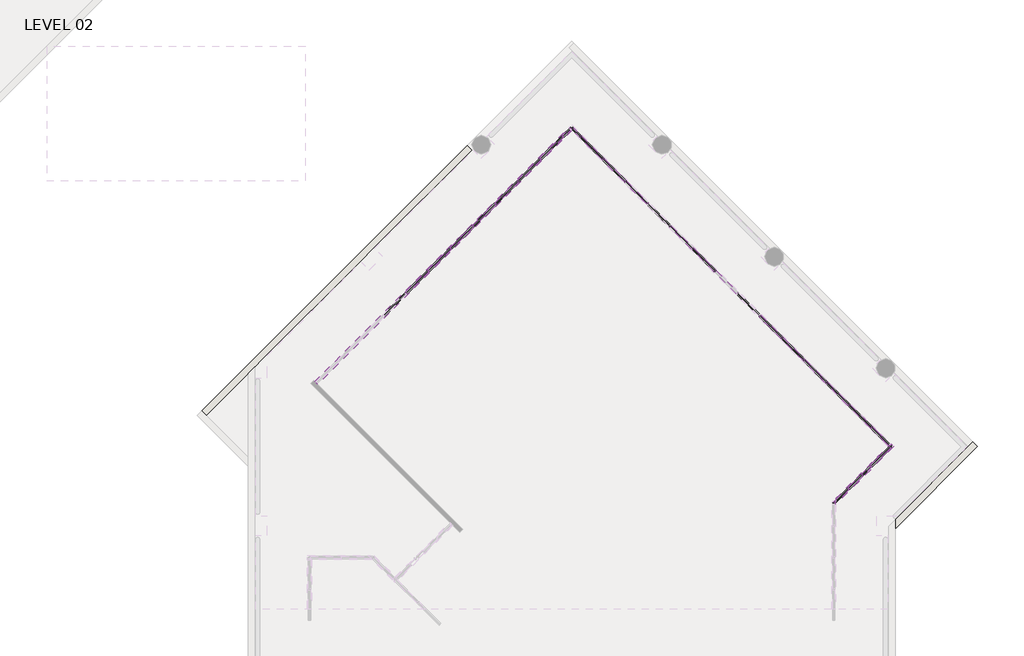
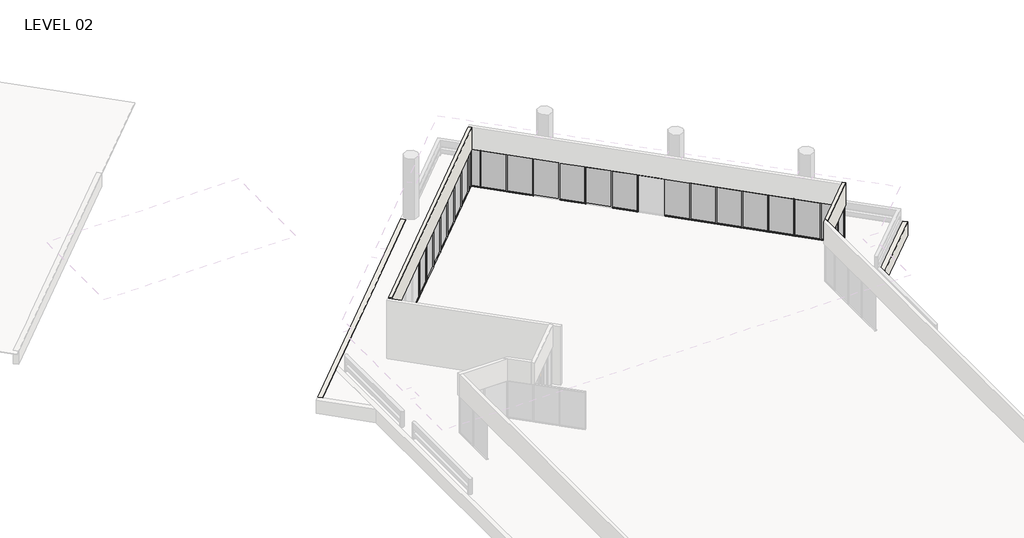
# One storey, part 17 of 19: 77 members, 26 plates, 4 walls.
"""IFC4 building model written with IfcOpenShell, lengths in millimetres."""

from ifc_helpers import new_model, si_unit, frame, origin, place, context, project, spatial, polyline, outline, extrude, faceted_brep, transform, mapped, element, save
from components import member_5247f267, member_e44af9ab, member_800970d4, member_b8d22739, member_e56bd8eb, member_191f7a6c, member_6d95746d, member_c23f844a, member_e779ecf1, member_129419c3, plate_67294edd, plate_4e8ae714, plate_aaac5d3d, plate_028de0fc, plate_e2551f41, plate_50b9cd61, plate_048e4634, plate_c15461e5, plate_33a48981, plate_85447239

model = new_model("IFC4")

# Units and contexts
model_context = context("Model", 3, world=origin())
ifc_project = project(units=[si_unit("LENGTHUNIT", "METRE", prefix="MILLI")], contexts=[model_context])

# Site, building, storey
site = spatial("IfcSite", under=ifc_project)
building = spatial("IfcBuilding", under=site)
storey = spatial("IfcBuildingStorey", under=building, Name="LEVEL 02", Elevation=4140.2)

# Members
placement = place(None, origin())
member_shape = member_5247f267(model_context)
element("IfcMember", 1, ObjectType="Rectangular Mullion : 2\" x 4.5\" rectangular", at=placement, inside=storey, context=model_context, shape_type="MappedRepresentation", body=[
    mapped(member_shape, transform((90192.1150289, 74747.7927786, 6731.0), x_axis=(0.0, 0.0, 1.0), y_axis=(0.7071067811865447, 0.7071067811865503, 0.0), z_axis=(-0.7071067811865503, 0.7071067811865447, 0.0))),
])
element("IfcMember", 2, ObjectType="Rectangular Mullion : 2\" x 4.5\" rectangular", at=placement, inside=storey, context=model_context, shape_type="MappedRepresentation", body=[
    mapped(member_shape, transform((75367.3482119, 86607.5365866, 6731.0), x_axis=(0.0, 0.0, 1.0), y_axis=(-0.7071067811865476, 0.7071067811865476, 0.0), z_axis=(-0.7071067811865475, -0.7071067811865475, 0.0))),
])
element("IfcMember", 3, ObjectType="Rectangular Mullion : 2\" x 4.5\" rectangular", at=placement, inside=storey, context=model_context, shape_type="MappedRepresentation", body=[
    mapped(member_shape, transform((72134.4856117, 83374.6739865, 6731.0), x_axis=(0.0, 0.0, 1.0), y_axis=(-0.7071067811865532, 0.7071067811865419, 0.0), z_axis=(-0.7071067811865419, -0.7071067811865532, 0.0))),
])
element("IfcMember", 4, ObjectType="Rectangular Mullion : 2\" x 4.5\" rectangular", at=placement, inside=storey, context=model_context, shape_type="MappedRepresentation", body=[
    mapped(member_shape, transform((69979.2537461, 81219.4421209, 6731.0), x_axis=(0.0, 0.0, 1.0), y_axis=(-0.7071067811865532, 0.7071067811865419, 0.0), z_axis=(-0.7071067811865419, -0.7071067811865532, 0.0))),
])
element("IfcMember", 5, ObjectType="Rectangular Mullion : 2\" x 4.5\" rectangular", at=placement, inside=storey, context=model_context, shape_type="MappedRepresentation", body=[
    mapped(member_shape, transform((68901.6378133, 80141.8261881, 6731.0), x_axis=(0.0, 0.0, 1.0), y_axis=(-0.7071067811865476, 0.7071067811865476, 0.0), z_axis=(-0.7071067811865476, -0.7071067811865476, 0.0))),
])
element("IfcMember", 6, ObjectType="Rectangular Mullion : 2\" x 4.5\" rectangular", at=placement, inside=storey, context=model_context, shape_type="MappedRepresentation", body=[
    mapped(member_shape, transform((79445.9229799, 85493.9848276, 6731.0), x_axis=(0.0, 0.0, 1.0), y_axis=(0.7071067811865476, 0.7071067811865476, 0.0), z_axis=(-0.7071067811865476, 0.7071067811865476, 0.0))),
])
element("IfcMember", 7, ObjectType="Rectangular Mullion : 2\" x 4.5\" rectangular", at=placement, inside=storey, context=model_context, shape_type="MappedRepresentation", body=[
    mapped(member_shape, transform((81601.1129799, 83338.7948276, 6731.0), x_axis=(0.0, 0.0, 1.0), y_axis=(0.7071067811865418, 0.7071067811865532, 0.0), z_axis=(-0.7071067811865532, 0.7071067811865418, 0.0))),
])
element("IfcMember", 8, ObjectType="Rectangular Mullion : 2\" x 4.5\" rectangular", at=placement, inside=storey, context=model_context, shape_type="MappedRepresentation", body=[
    mapped(member_shape, transform((82678.7079799, 82261.1998276, 6731.0), x_axis=(0.0, 0.0, 1.0), y_axis=(0.7071067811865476, 0.7071067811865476, 0.0), z_axis=(-0.7071067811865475, 0.7071067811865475, 0.0))),
])
element("IfcMember", 9, ObjectType="Rectangular Mullion : 2\" x 4.5\" rectangular", at=placement, inside=storey, context=model_context, shape_type="MappedRepresentation", body=[
    mapped(member_shape, transform((83756.3029799, 81183.6048276, 6731.0), x_axis=(0.0, 0.0, 1.0), y_axis=(0.7071067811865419, 0.7071067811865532, 0.0), z_axis=(-0.7071067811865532, 0.7071067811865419, 0.0))),
])
element("IfcMember", 10, ObjectType="Rectangular Mullion : 2\" x 4.5\" rectangular", at=placement, inside=storey, context=model_context, shape_type="MappedRepresentation", body=[
    mapped(member_shape, transform((78368.2922454, 86571.6155621, 6731.0), x_axis=(0.0, 0.0, 1.0), y_axis=(0.7071067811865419, 0.7071067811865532, 0.0), z_axis=(-0.7071067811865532, 0.7071067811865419, 0.0))),
])
element("IfcMember", 11, ObjectType="Rectangular Mullion : 2\" x 4.5\" rectangular", at=placement, inside=storey, context=model_context, shape_type="MappedRepresentation", body=[
    mapped(member_shape, transform((77290.6615109, 87649.2462966, 6731.0), x_axis=(0.0, 0.0, 1.0), y_axis=(0.7071067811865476, 0.7071067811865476, 0.0), z_axis=(-0.7071067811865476, 0.7071067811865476, 0.0))),
])
element("IfcMember", 12, ObjectType="Rectangular Mullion : 2\" x 4.5\" rectangular", at=placement, inside=storey, context=model_context, shape_type="MappedRepresentation", body=[
    mapped(member_shape, transform((74289.7174773, 85529.9058521, 6731.0), x_axis=(0.0, 0.0, 1.0), y_axis=(-0.7071067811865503, 0.7071067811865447, 0.0), z_axis=(-0.7071067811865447, -0.7071067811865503, 0.0))),
])
element("IfcMember", 13, ObjectType="Rectangular Mullion : 2\" x 4.5\" rectangular", at=placement, inside=storey, context=model_context, shape_type="MappedRepresentation", body=[
    mapped(member_shape, transform((71056.8696789, 82297.0580537, 6731.0), x_axis=(0.0, 0.0, 1.0), y_axis=(-0.7071067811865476, 0.7071067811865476, 0.0), z_axis=(-0.7071067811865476, -0.7071067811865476, 0.0))),
])
element("IfcMember", 14, ObjectType="Rectangular Mullion : 2\" x 4.5\" rectangular", at=placement, inside=storey, context=model_context, shape_type="MappedRepresentation", body=[
    mapped(member_shape, transform((73212.1015445, 84452.2899193, 6731.0), x_axis=(0.0, 0.0, 1.0), y_axis=(-0.7071067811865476, 0.7071067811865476, 0.0), z_axis=(-0.7071067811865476, -0.7071067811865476, 0.0))),
])
element("IfcMember", 15, ObjectType="Rectangular Mullion : 2\" x 4.5\" rectangular", at=placement, inside=storey, context=model_context, shape_type="MappedRepresentation", body=[
    mapped(member_shape, transform((91233.824739, 73706.0830686, 4140.2), x_axis=(0.0, 0.0, -1.0), y_axis=(0.7071067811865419, 0.7071067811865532, 0.0), z_axis=(0.7071067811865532, -0.7071067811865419, 0.0))),
])
element("IfcMember", 16, ObjectType="Rectangular Mullion : 2\" x 4.5\" rectangular", at=placement, inside=storey, context=model_context, shape_type="MappedRepresentation", body=[
    mapped(member_shape, transform((76409.0579219, 87649.2462966, 4140.2), x_axis=(0.0, 0.0, -1.0), y_axis=(-0.7071067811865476, 0.7071067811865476, 0.0), z_axis=(0.7071067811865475, 0.7071067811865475, 0.0))),
])
element("IfcMember", 17, ObjectType="Rectangular Mullion : 2\" x 4.5\" rectangular", at=placement, inside=storey, context=model_context, shape_type="MappedRepresentation", body=[
    mapped(member_shape, transform((75331.4271874, 86571.6155621, 4140.2), x_axis=(0.0, 0.0, -1.0), y_axis=(-0.7071067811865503, 0.7071067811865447, 0.0), z_axis=(0.7071067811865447, 0.7071067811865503, 0.0))),
])
element("IfcMember", 18, ObjectType="Rectangular Mullion : 2\" x 4.5\" rectangular", at=placement, inside=storey, context=model_context, shape_type="MappedRepresentation", body=[
    mapped(member_shape, transform((72098.5645873, 83338.752962, 4140.2), x_axis=(0.0, 0.0, -1.0), y_axis=(-0.7071067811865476, 0.7071067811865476, 0.0), z_axis=(0.7071067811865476, 0.7071067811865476, 0.0))),
])
element("IfcMember", 19, ObjectType="Rectangular Mullion : 2\" x 4.5\" rectangular", at=placement, inside=storey, context=model_context, shape_type="MappedRepresentation", body=[
    mapped(member_shape, transform((69943.3327217, 81183.5210964, 4140.2), x_axis=(0.0, 0.0, -1.0), y_axis=(-0.7071067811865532, 0.7071067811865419, 0.0), z_axis=(0.7071067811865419, 0.7071067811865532, 0.0))),
])
element("IfcMember", 20, ObjectType="Rectangular Mullion : 2\" x 4.5\" rectangular", at=placement, inside=storey, context=model_context, shape_type="MappedRepresentation", body=[
    mapped(member_shape, transform((68865.7167888, 80105.9051636, 4140.2), x_axis=(0.0, 0.0, -1.0), y_axis=(-0.7071067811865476, 0.7071067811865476, 0.0), z_axis=(0.7071067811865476, 0.7071067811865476, 0.0))),
])
element("IfcMember", 21, ObjectType="Rectangular Mullion : 2\" x 4.5\" rectangular", at=placement, inside=storey, context=model_context, shape_type="MappedRepresentation", body=[
    mapped(member_shape, transform((79410.0019555, 85529.9058521, 4140.2), x_axis=(0.0, 0.0, -1.0), y_axis=(0.7071067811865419, 0.7071067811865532, 0.0), z_axis=(0.7071067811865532, -0.7071067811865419, 0.0))),
])
element("IfcMember", 22, ObjectType="Rectangular Mullion : 2\" x 4.5\" rectangular", at=placement, inside=storey, context=model_context, shape_type="MappedRepresentation", body=[
    mapped(member_shape, transform((81565.1919555, 83374.7158521, 4140.2), x_axis=(0.0, 0.0, -1.0), y_axis=(0.7071067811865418, 0.7071067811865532, 0.0), z_axis=(0.7071067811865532, -0.7071067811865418, 0.0))),
])
element("IfcMember", 23, ObjectType="Rectangular Mullion : 2\" x 4.5\" rectangular", at=placement, inside=storey, context=model_context, shape_type="MappedRepresentation", body=[
    mapped(member_shape, transform((83720.3819555, 81219.5258521, 4140.2), x_axis=(0.0, 0.0, -1.0), y_axis=(0.7071067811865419, 0.7071067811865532, 0.0), z_axis=(0.7071067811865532, -0.7071067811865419, 0.0))),
])
element("IfcMember", 24, ObjectType="Rectangular Mullion : 2\" x 4.5\" rectangular", at=placement, inside=storey, context=model_context, shape_type="MappedRepresentation", body=[
    mapped(member_shape, transform((78332.3712209, 86607.5365866, 4140.2), x_axis=(0.0, 0.0, -1.0), y_axis=(0.7071067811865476, 0.7071067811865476, 0.0), z_axis=(0.7071067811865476, -0.7071067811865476, 0.0))),
])
element("IfcMember", 25, ObjectType="Rectangular Mullion : 2\" x 4.5\" rectangular", at=placement, inside=storey, context=model_context, shape_type="MappedRepresentation", body=[
    mapped(member_shape, transform((74253.7964529, 85493.9848276, 4140.2), x_axis=(0.0, 0.0, -1.0), y_axis=(-0.7071067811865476, 0.7071067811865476, 0.0), z_axis=(0.7071067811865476, 0.7071067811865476, 0.0))),
])
element("IfcMember", 26, ObjectType="Rectangular Mullion : 2\" x 4.5\" rectangular", at=placement, inside=storey, context=model_context, shape_type="MappedRepresentation", body=[
    mapped(member_shape, transform((71020.9486545, 82261.1370292, 4140.2), x_axis=(0.0, 0.0, -1.0), y_axis=(-0.7071067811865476, 0.7071067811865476, 0.0), z_axis=(0.7071067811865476, 0.7071067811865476, 0.0))),
])
element("IfcMember", 27, ObjectType="Rectangular Mullion : 2\" x 4.5\" rectangular", at=placement, inside=storey, context=model_context, shape_type="MappedRepresentation", body=[
    mapped(member_shape, transform((73176.1805201, 84416.3688948, 4140.2), x_axis=(0.0, 0.0, -1.0), y_axis=(-0.7071067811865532, 0.7071067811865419, 0.0), z_axis=(0.7071067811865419, 0.7071067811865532, 0.0))),
])
member_2_shape = member_e44af9ab(model_context)
element("IfcMember", 28, ObjectType="Rectangular Mullion : 2\" x 4.5\" rectangular", at=placement, inside=storey, context=model_context, shape_type="MappedRepresentation", body=[
    mapped(member_2_shape, transform((90153.1124677, 70729.1398372, 4140.2), x_axis=(0.7071067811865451, 0.7071067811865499, 0.0), y_axis=(0.7071067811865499, -0.7071067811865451, 0.0), z_axis=(0.0, 0.0, -1.0))),
])
element("IfcMember", 29, ObjectType="Rectangular Mullion : 2\" x 4.5\" rectangular", at=placement, inside=storey, context=model_context, shape_type="MappedRepresentation", body=[
    mapped(member_2_shape, transform((91251.7852512, 73688.1225563, 4140.2), x_axis=(-0.7071067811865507, 0.7071067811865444, 0.0), y_axis=(0.7071067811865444, 0.7071067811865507, 0.0), z_axis=(0.0, 0.0, -1.0))),
])
element("IfcMember", 30, ObjectType="Rectangular Mullion : 2\" x 4.5\" rectangular", at=placement, inside=storey, context=model_context, shape_type="MappedRepresentation", body=[
    mapped(member_2_shape, transform((90174.1545167, 74765.7532909, 4140.2), x_axis=(-0.7071067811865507, 0.7071067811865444, 0.0), y_axis=(0.7071067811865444, 0.7071067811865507, 0.0), z_axis=(0.0, 0.0, -1.0))),
])
element("IfcMember", 31, ObjectType="Rectangular Mullion : 2\" x 4.5\" rectangular", at=placement, inside=storey, context=model_context, shape_type="MappedRepresentation", body=[
    mapped(member_2_shape, transform((89102.5111069, 75837.3967006, 4140.2), x_axis=(-0.7071067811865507, 0.7071067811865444, 0.0), y_axis=(0.7071067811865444, 0.7071067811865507, 0.0), z_axis=(0.0, 0.0, -1.0))),
])
element("IfcMember", 32, ObjectType="Rectangular Mullion : 2\" x 4.5\" rectangular", at=placement, inside=storey, context=model_context, shape_type="MappedRepresentation", body=[
    mapped(member_2_shape, transform((88030.8676971, 76909.0401104, 4140.2), x_axis=(-0.7071067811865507, 0.7071067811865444, 0.0), y_axis=(0.7071067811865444, 0.7071067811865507, 0.0), z_axis=(0.0, 0.0, -1.0))),
])
element("IfcMember", 33, ObjectType="Rectangular Mullion : 2\" x 4.5\" rectangular", at=placement, inside=storey, context=model_context, shape_type="MappedRepresentation", body=[
    mapped(member_2_shape, transform((76427.0184342, 87667.2068089, 4140.2), x_axis=(-0.7071067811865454, -0.7071067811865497, 0.0), y_axis=(-0.7071067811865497, 0.7071067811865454, 0.0), z_axis=(0.0, 0.0, -1.0))),
])
element("IfcMember", 34, ObjectType="Rectangular Mullion : 2\" x 4.5\" rectangular", at=placement, inside=storey, context=model_context, shape_type="MappedRepresentation", body=[
    mapped(member_2_shape, transform((75349.3876996, 86589.5760744, 4140.2), x_axis=(-0.7071067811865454, -0.7071067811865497, 0.0), y_axis=(-0.7071067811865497, 0.7071067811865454, 0.0), z_axis=(0.0, 0.0, -1.0))),
])
element("IfcMember", 35, ObjectType="Rectangular Mullion : 2\" x 4.5\" rectangular", at=placement, inside=storey, context=model_context, shape_type="MappedRepresentation", body=[
    mapped(member_2_shape, transform((72116.5250995, 83356.7134742, 4140.2), x_axis=(-0.7071067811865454, -0.7071067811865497, 0.0), y_axis=(-0.7071067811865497, 0.7071067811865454, 0.0), z_axis=(0.0, 0.0, -1.0))),
])
element("IfcMember", 36, ObjectType="Rectangular Mullion : 2\" x 4.5\" rectangular", at=placement, inside=storey, context=model_context, shape_type="MappedRepresentation", body=[
    mapped(member_2_shape, transform((69961.2932339, 81201.4816086, 4140.2), x_axis=(-0.7071067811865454, -0.7071067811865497, 0.0), y_axis=(-0.7071067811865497, 0.7071067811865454, 0.0), z_axis=(0.0, 0.0, -1.0))),
])
element("IfcMember", 37, ObjectType="Rectangular Mullion : 2\" x 4.5\" rectangular", at=placement, inside=storey, context=model_context, shape_type="MappedRepresentation", body=[
    mapped(member_2_shape, transform((68883.6773011, 80123.8656758, 4140.2), x_axis=(-0.7071067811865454, -0.7071067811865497, 0.0), y_axis=(-0.7071067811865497, 0.7071067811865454, 0.0), z_axis=(0.0, 0.0, -1.0))),
])
element("IfcMember", 38, ObjectType="Rectangular Mullion : 2\" x 4.5\" rectangular", at=placement, inside=storey, context=model_context, shape_type="MappedRepresentation", body=[
    mapped(member_2_shape, transform((86959.2242873, 77980.6835202, 4140.2), x_axis=(-0.7071067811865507, 0.7071067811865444, 0.0), y_axis=(0.7071067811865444, 0.7071067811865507, 0.0), z_axis=(0.0, 0.0, -1.0))),
])
element("IfcMember", 39, ObjectType="Rectangular Mullion : 2\" x 4.5\" rectangular", at=placement, inside=storey, context=model_context, shape_type="MappedRepresentation", body=[
    mapped(member_2_shape, transform((85887.5808775, 79052.32693, 4140.2), x_axis=(-0.7071067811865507, 0.7071067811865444, 0.0), y_axis=(0.7071067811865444, 0.7071067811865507, 0.0), z_axis=(0.0, 0.0, -1.0))),
])
element("IfcMember", 40, ObjectType="Rectangular Mullion : 2\" x 4.5\" rectangular", at=placement, inside=storey, context=model_context, shape_type="MappedRepresentation", body=[
    mapped(member_2_shape, transform((79427.9624677, 85511.9453398, 4140.2), x_axis=(-0.7071067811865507, 0.7071067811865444, 0.0), y_axis=(0.7071067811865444, 0.7071067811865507, 0.0), z_axis=(0.0, 0.0, -1.0))),
])
element("IfcMember", 41, ObjectType="Rectangular Mullion : 2\" x 4.5\" rectangular", at=placement, inside=storey, context=model_context, shape_type="MappedRepresentation", body=[
    mapped(member_2_shape, transform((91230.7432022, 71806.7705717, 4140.2), x_axis=(0.7071067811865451, 0.7071067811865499, 0.0), y_axis=(0.7071067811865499, -0.7071067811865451, 0.0), z_axis=(0.0, 0.0, -1.0))),
])
element("IfcMember", 42, ObjectType="Rectangular Mullion : 2\" x 4.5\" rectangular", at=placement, inside=storey, context=model_context, shape_type="MappedRepresentation", body=[
    mapped(member_2_shape, transform((81583.1524677, 83356.7553398, 4140.2), x_axis=(-0.7071067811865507, 0.7071067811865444, 0.0), y_axis=(0.7071067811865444, 0.7071067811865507, 0.0), z_axis=(0.0, 0.0, -1.0))),
])
element("IfcMember", 43, ObjectType="Rectangular Mullion : 2\" x 4.5\" rectangular", at=placement, inside=storey, context=model_context, shape_type="MappedRepresentation", body=[
    mapped(member_2_shape, transform((83738.3424677, 81201.5653398, 4140.2), x_axis=(-0.7071067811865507, 0.7071067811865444, 0.0), y_axis=(0.7071067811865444, 0.7071067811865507, 0.0), z_axis=(0.0, 0.0, -1.0))),
])
element("IfcMember", 44, ObjectType="Rectangular Mullion : 2\" x 4.5\" rectangular", at=placement, inside=storey, context=model_context, shape_type="MappedRepresentation", body=[
    mapped(member_2_shape, transform((78350.3317332, 86589.5760744, 4140.2), x_axis=(-0.7071067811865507, 0.7071067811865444, 0.0), y_axis=(0.7071067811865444, 0.7071067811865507, 0.0), z_axis=(0.0, 0.0, -1.0))),
])
element("IfcMember", 45, ObjectType="Rectangular Mullion : 2\" x 4.5\" rectangular", at=placement, inside=storey, context=model_context, shape_type="MappedRepresentation", body=[
    mapped(member_2_shape, transform((77272.7009986, 87667.2068089, 4140.2), x_axis=(-0.7071067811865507, 0.7071067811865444, 0.0), y_axis=(0.7071067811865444, 0.7071067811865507, 0.0), z_axis=(0.0, 0.0, -1.0))),
])
element("IfcMember", 46, ObjectType="Rectangular Mullion : 2\" x 4.5\" rectangular", at=placement, inside=storey, context=model_context, shape_type="MappedRepresentation", body=[
    mapped(member_2_shape, transform((74271.7569651, 85511.9453398, 4140.2), x_axis=(-0.7071067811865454, -0.7071067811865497, 0.0), y_axis=(-0.7071067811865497, 0.7071067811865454, 0.0), z_axis=(0.0, 0.0, -1.0))),
])
element("IfcMember", 47, ObjectType="Rectangular Mullion : 2\" x 4.5\" rectangular", at=placement, inside=storey, context=model_context, shape_type="MappedRepresentation", body=[
    mapped(member_2_shape, transform((71038.9091667, 82279.0975414, 4140.2), x_axis=(-0.7071067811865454, -0.7071067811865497, 0.0), y_axis=(-0.7071067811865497, 0.7071067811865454, 0.0), z_axis=(0.0, 0.0, -1.0))),
])
element("IfcMember", 48, ObjectType="Rectangular Mullion : 2\" x 4.5\" rectangular", at=placement, inside=storey, context=model_context, shape_type="MappedRepresentation", body=[
    mapped(member_2_shape, transform((73194.1410323, 84434.329407, 4140.2), x_axis=(-0.7071067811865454, -0.7071067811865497, 0.0), y_axis=(-0.7071067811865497, 0.7071067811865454, 0.0), z_axis=(0.0, 0.0, -1.0))),
])
member_3_shape = member_800970d4(model_context)
element("IfcMember", 49, ObjectType="Rectangular Mullion : 2\" x 4.5\" rectangular", at=placement, inside=storey, context=model_context, shape_type="MappedRepresentation", body=[
    mapped(member_3_shape, transform((92181.940219, 72757.9675885, 4140.2), x_axis=(0.7071067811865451, 0.7071067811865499, 0.0), y_axis=(0.7071067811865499, -0.7071067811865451, 0.0), z_axis=(0.0, 0.0, -1.0))),
])
element("IfcMember", 50, ObjectType="Rectangular Mullion : 2\" x 4.5\" rectangular", at=placement, inside=storey, context=model_context, shape_type="MappedRepresentation", body=[
    mapped(member_3_shape, transform((76849.8597164, 88090.0480911, 4140.2), x_axis=(-0.7071067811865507, 0.7071067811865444, 0.0), y_axis=(0.7071067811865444, 0.7071067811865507, 0.0), z_axis=(0.0, 0.0, -1.0))),
])
element("IfcMember", 51, ObjectType="Rectangular Mullion : 2\" x 4.5\" rectangular", at=placement, inside=storey, context=model_context, shape_type="MappedRepresentation", body=[
    mapped(member_3_shape, transform((89445.0847164, 70021.1120859, 6731.0), x_axis=(-0.7071067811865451, -0.7071067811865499, 0.0), y_axis=(0.7071067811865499, -0.7071067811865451, 0.0), z_axis=(0.0, 0.0, 1.0))),
])
element("IfcMember", 52, ObjectType="Rectangular Mullion : 2\" x 4.5\" rectangular", at=placement, inside=storey, context=model_context, shape_type="MappedRepresentation", body=[
    mapped(member_3_shape, transform((92181.940219, 72757.9675885, 6731.0), x_axis=(0.7071067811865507, -0.7071067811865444, 0.0), y_axis=(0.7071067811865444, 0.7071067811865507, 0.0), z_axis=(0.0, 0.0, 1.0))),
])
element("IfcMember", 53, ObjectType="Rectangular Mullion : 2\" x 4.5\" rectangular", at=placement, inside=storey, context=model_context, shape_type="MappedRepresentation", body=[
    mapped(member_3_shape, transform((76849.8597164, 88090.0480911, 6731.0), x_axis=(0.7071067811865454, 0.7071067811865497, 0.0), y_axis=(-0.7071067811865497, 0.7071067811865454, 0.0), z_axis=(0.0, 0.0, 1.0))),
])
member_4_shape = member_b8d22739(model_context)
element("IfcMember", 54, ObjectType="Rectangular Mullion : 2\" x 4.5\" rectangular", at=placement, inside=storey, context=model_context, shape_type="MappedRepresentation", body=[
    mapped(member_4_shape, transform((76813.9386919, 88054.1270666, 4140.2), x_axis=(0.0, 0.0, -1.0), y_axis=(-0.7071067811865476, 0.7071067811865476, 0.0), z_axis=(0.7071067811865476, 0.7071067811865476, 0.0))),
])
element("IfcMember", 55, ObjectType="Rectangular Mullion : 2\" x 4.5\" rectangular", at=placement, inside=storey, context=model_context, shape_type="MappedRepresentation", body=[
    mapped(member_4_shape, transform((77254.7404864, 87685.1673211, 4140.2), x_axis=(0.0, 0.0, -1.0), y_axis=(0.7071067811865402, 0.7071067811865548, 0.0), z_axis=(0.7071067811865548, -0.7071067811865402, 0.0))),
])
element("IfcMember", 56, ObjectType="Rectangular Mullion : 2\" x 4.5\" rectangular", at=placement, inside=storey, context=model_context, shape_type="MappedRepresentation", body=[
    mapped(member_4_shape, transform((76885.7807409, 88054.1270666, 6731.0), x_axis=(0.0, 0.0, 1.0), y_axis=(0.7071067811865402, 0.7071067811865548, 0.0), z_axis=(-0.7071067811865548, 0.7071067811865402, 0.0))),
])
element("IfcMember", 57, ObjectType="Rectangular Mullion : 2\" x 4.5\" rectangular", at=placement, inside=storey, context=model_context, shape_type="MappedRepresentation", body=[
    mapped(member_4_shape, transform((76444.9789464, 87685.1673211, 6731.0), x_axis=(0.0, 0.0, 1.0), y_axis=(-0.7071067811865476, 0.7071067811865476, 0.0), z_axis=(-0.7071067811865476, -0.7071067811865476, 0.0))),
])
member_5_shape = member_e56bd8eb(model_context)
element("IfcMember", 58, ObjectType="Rectangular Mullion : 2\" x 4.5\" rectangular", at=placement, inside=storey, context=model_context, shape_type="MappedRepresentation", body=[
    mapped(member_5_shape, transform((92146.0191945, 72722.046564, 6731.0), x_axis=(0.0, 0.0, 1.0), y_axis=(0.7071067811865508, -0.7071067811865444, 0.0), z_axis=(0.7071067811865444, 0.7071067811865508, 0.0))),
])
member_6_shape = member_191f7a6c(model_context)
element("IfcMember", 59, ObjectType="Rectangular Mullion : 2\" x 4.5\" rectangular", at=placement, inside=storey, context=model_context, shape_type="MappedRepresentation", body=[
    mapped(member_6_shape, transform((90135.1519555, 70711.179325, 6731.0), x_axis=(0.0, 0.0, 1.0), y_axis=(0.7071067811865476, -0.7071067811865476, 0.0), z_axis=(0.7071067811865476, 0.7071067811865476, 0.0))),
])
element("IfcMember", 60, ObjectType="Rectangular Mullion : 2\" x 4.5\" rectangular", at=placement, inside=storey, context=model_context, shape_type="MappedRepresentation", body=[
    mapped(member_6_shape, transform((89481.0057409, 70057.0331104, 4140.2), x_axis=(0.0, 0.0, -1.0), y_axis=(0.7071067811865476, -0.7071067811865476, 0.0), z_axis=(-0.7071067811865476, -0.7071067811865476, 0.0))),
])
element("IfcMember", 61, ObjectType="Rectangular Mullion : 2\" x 4.5\" rectangular", at=placement, inside=storey, context=model_context, shape_type="MappedRepresentation", body=[
    mapped(member_5_shape, transform((91248.7037145, 71824.731084, 4140.2), x_axis=(0.0, 0.0, -1.0), y_axis=(0.7071067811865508, -0.7071067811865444, 0.0), z_axis=(-0.7071067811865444, -0.7071067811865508, 0.0))),
])
member_7_shape = member_6d95746d(model_context)
element("IfcMember", 62, ObjectType="Rectangular Mullion : 2\" x 4.5\" rectangular", at=placement, inside=storey, context=model_context, shape_type="MappedRepresentation", body=[
    mapped(member_7_shape, transform((91269.7457634, 73670.1620441, 6731.0), x_axis=(0.0, 0.0, 1.0), y_axis=(0.7071067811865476, 0.7071067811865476, 0.0), z_axis=(-0.7071067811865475, 0.7071067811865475, 0.0))),
])
member_8_shape = member_c23f844a(model_context)
element("IfcMember", 63, ObjectType="Rectangular Mullion : 2\" x 4.5\" rectangular", at=placement, inside=storey, context=model_context, shape_type="MappedRepresentation", body=[
    mapped(member_8_shape, transform((89120.4716191, 75819.4361884, 6731.0), x_axis=(0.0, 0.0, 1.0), y_axis=(0.7071067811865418, 0.7071067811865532, 0.0), z_axis=(-0.7071067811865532, 0.7071067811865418, 0.0))),
])
element("IfcMember", 64, ObjectType="Rectangular Mullion : 2\" x 4.5\" rectangular", at=placement, inside=storey, context=model_context, shape_type="MappedRepresentation", body=[
    mapped(member_8_shape, transform((88048.8282093, 76891.0795982, 6731.0), x_axis=(0.0, 0.0, 1.0), y_axis=(0.7071067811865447, 0.7071067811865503, 0.0), z_axis=(-0.7071067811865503, 0.7071067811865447, 0.0))),
])
element("IfcMember", 65, ObjectType="Rectangular Mullion : 2\" x 4.5\" rectangular", at=placement, inside=storey, context=model_context, shape_type="MappedRepresentation", body=[
    mapped(member_8_shape, transform((86977.1847995, 77962.723008, 6731.0), x_axis=(0.0, 0.0, 1.0), y_axis=(0.7071067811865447, 0.7071067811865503, 0.0), z_axis=(-0.7071067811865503, 0.7071067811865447, 0.0))),
])
element("IfcMember", 66, ObjectType="Rectangular Mullion : 2\" x 4.5\" rectangular", at=placement, inside=storey, context=model_context, shape_type="MappedRepresentation", body=[
    mapped(member_8_shape, transform((85905.5413897, 79034.3664178, 6731.0), x_axis=(0.0, 0.0, 1.0), y_axis=(0.7071067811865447, 0.7071067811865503, 0.0), z_axis=(-0.7071067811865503, 0.7071067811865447, 0.0))),
])
element("IfcMember", 67, ObjectType="Rectangular Mullion : 2\" x 4.5\" rectangular", at=placement, inside=storey, context=model_context, shape_type="MappedRepresentation", body=[
    mapped(member_7_shape, transform((92146.0191945, 72793.888613, 4140.2), x_axis=(0.0, 0.0, -1.0), y_axis=(0.7071067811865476, 0.7071067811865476, 0.0), z_axis=(0.7071067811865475, -0.7071067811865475, 0.0))),
])
element("IfcMember", 68, ObjectType="Rectangular Mullion : 2\" x 4.5\" rectangular", at=placement, inside=storey, context=model_context, shape_type="MappedRepresentation", body=[
    mapped(member_8_shape, transform((90156.1940044, 74783.7138031, 4140.2), x_axis=(0.0, 0.0, -1.0), y_axis=(0.7071067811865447, 0.7071067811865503, 0.0), z_axis=(0.7071067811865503, -0.7071067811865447, 0.0))),
])
element("IfcMember", 69, ObjectType="Rectangular Mullion : 2\" x 4.5\" rectangular", at=placement, inside=storey, context=model_context, shape_type="MappedRepresentation", body=[
    mapped(member_8_shape, transform((89084.5505946, 75855.3572129, 4140.2), x_axis=(0.0, 0.0, -1.0), y_axis=(0.7071067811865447, 0.7071067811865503, 0.0), z_axis=(0.7071067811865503, -0.7071067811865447, 0.0))),
])
element("IfcMember", 70, ObjectType="Rectangular Mullion : 2\" x 4.5\" rectangular", at=placement, inside=storey, context=model_context, shape_type="MappedRepresentation", body=[
    mapped(member_8_shape, transform((88012.9071848, 76927.0006227, 4140.2), x_axis=(0.0, 0.0, -1.0), y_axis=(0.7071067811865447, 0.7071067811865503, 0.0), z_axis=(0.7071067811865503, -0.7071067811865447, 0.0))),
])
element("IfcMember", 71, ObjectType="Rectangular Mullion : 2\" x 4.5\" rectangular", at=placement, inside=storey, context=model_context, shape_type="MappedRepresentation", body=[
    mapped(member_8_shape, transform((86941.263775, 77998.6440325, 4140.2), x_axis=(0.0, 0.0, -1.0), y_axis=(0.7071067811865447, 0.7071067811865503, 0.0), z_axis=(0.7071067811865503, -0.7071067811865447, 0.0))),
])
element("IfcMember", 72, ObjectType="Rectangular Mullion : 2\" x 4.5\" rectangular", at=placement, inside=storey, context=model_context, shape_type="MappedRepresentation", body=[
    mapped(member_8_shape, transform((85869.6203653, 79070.2874423, 4140.2), x_axis=(0.0, 0.0, -1.0), y_axis=(0.7071067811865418, 0.7071067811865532, 0.0), z_axis=(0.7071067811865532, -0.7071067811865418, 0.0))),
])
element("IfcMember", 73, ObjectType="Rectangular Mullion : 2\" x 4.5\" rectangular", at=placement, inside=storey, context=model_context, shape_type="MappedRepresentation", body=[
    mapped(member_2_shape, transform((90813.5124677, 71389.5398372, 4140.2), x_axis=(0.7071067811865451, 0.7071067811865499, 0.0), y_axis=(0.7071067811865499, -0.7071067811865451, 0.0), z_axis=(0.0, 0.0, -1.0))),
])
member_9_shape = member_e779ecf1(model_context)
element("IfcMember", 74, ObjectType="Rectangular Mullion : 2\" x 4.5\" rectangular", at=placement, inside=storey, context=model_context, shape_type="MappedRepresentation", body=[
    mapped(member_9_shape, transform((90171.0729799, 70747.1003495, 4140.2), x_axis=(0.0, 0.0, -1.0), y_axis=(0.7071067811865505, -0.7071067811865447, 0.0), z_axis=(-0.7071067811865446, -0.7071067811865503, 0.0))),
])
member_10_shape = member_129419c3(model_context)
element("IfcMember", 75, ObjectType="Rectangular Mullion : 2\" x 4.5\" rectangular", at=placement, inside=storey, context=model_context, shape_type="MappedRepresentation", body=[
    mapped(member_10_shape, transform((91212.78269, 71788.8100595, 6731.0), x_axis=(0.0, 0.0, 1.0), y_axis=(0.7071067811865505, -0.7071067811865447, 0.0), z_axis=(0.7071067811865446, 0.7071067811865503, 0.0))),
])
element("IfcMember", 76, ObjectType="Rectangular Mullion : 2\" x 4.5\" rectangular", at=placement, inside=storey, context=model_context, shape_type="MappedRepresentation", body=[
    mapped(member_10_shape, transform((90831.4729799, 71407.5003495, 4140.2), x_axis=(0.0, 0.0, -1.0), y_axis=(0.7071067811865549, -0.7071067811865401, 0.0), z_axis=(-0.7071067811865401, -0.7071067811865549, 0.0))),
])
element("IfcMember", 77, ObjectType="Rectangular Mullion : 2\" x 4.5\" rectangular", at=placement, inside=storey, context=model_context, shape_type="MappedRepresentation", body=[
    mapped(member_9_shape, transform((90795.5519555, 71371.579325, 6731.0), x_axis=(0.0, 0.0, 1.0), y_axis=(0.7071067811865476, -0.7071067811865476, 0.0), z_axis=(0.7071067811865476, 0.7071067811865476, 0.0))),
])

# Plates
plate_shape = plate_67294edd(model_context)
element("IfcPlate", 78, ObjectType="System Panel : 1/4\" Glass", at=placement, inside=storey, context=model_context, shape_type="MappedRepresentation", body=[
    mapped(plate_shape, transform((90712.9698839, 74226.9379236, 4191.0), x_axis=(-0.7071067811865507, 0.7071067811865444, 0.0), y_axis=(-0.7071067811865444, -0.7071067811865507, 0.0), z_axis=(0.0, 0.0, 1.0))),
])
element("IfcPlate", 79, ObjectType="System Panel : 1/4\" Glass", at=placement, inside=storey, context=model_context, shape_type="MappedRepresentation", body=[
    mapped(plate_shape, transform((75888.2030669, 87128.3914416, 4191.0), x_axis=(-0.7071067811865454, -0.7071067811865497, 0.0), y_axis=(0.7071067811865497, -0.7071067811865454, 0.0), z_axis=(0.0, 0.0, 1.0))),
])
element("IfcPlate", 80, ObjectType="System Panel : 1/4\" Glass", at=placement, inside=storey, context=model_context, shape_type="MappedRepresentation", body=[
    mapped(plate_shape, transform((74810.5723324, 86050.7607071, 4191.0), x_axis=(-0.7071067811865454, -0.7071067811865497, 0.0), y_axis=(0.7071067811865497, -0.7071067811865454, 0.0), z_axis=(0.0, 0.0, 1.0))),
])
element("IfcPlate", 81, ObjectType="System Panel : 1/4\" Glass", at=placement, inside=storey, context=model_context, shape_type="MappedRepresentation", body=[
    mapped(plate_shape, transform((78889.1471004, 86050.7607071, 4191.0), x_axis=(-0.7071067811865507, 0.7071067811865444, 0.0), y_axis=(-0.7071067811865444, -0.7071067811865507, 0.0), z_axis=(0.0, 0.0, 1.0))),
])
element("IfcPlate", 82, ObjectType="System Panel : 1/4\" Glass", at=placement, inside=storey, context=model_context, shape_type="MappedRepresentation", body=[
    mapped(plate_shape, transform((77811.5163659, 87128.3914416, 4191.0), x_axis=(-0.7071067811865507, 0.7071067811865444, 0.0), y_axis=(-0.7071067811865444, -0.7071067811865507, 0.0), z_axis=(0.0, 0.0, 1.0))),
])
plate_2_shape = plate_4e8ae714(model_context)
element("IfcPlate", 83, ObjectType="System Panel : 1/4\" Glass", at=placement, inside=storey, context=model_context, shape_type="MappedRepresentation", body=[
    mapped(plate_2_shape, transform((76629.4588192, 87869.6471939, 4191.0), x_axis=(-0.7071067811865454, -0.7071067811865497, 0.0), y_axis=(0.7071067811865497, -0.7071067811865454, 0.0), z_axis=(0.0, 0.0, 1.0))),
])
element("IfcPlate", 84, ObjectType="System Panel : 1/4\" Glass", at=placement, inside=storey, context=model_context, shape_type="MappedRepresentation", body=[
    mapped(plate_2_shape, transform((77070.2606136, 87869.6471939, 4191.0), x_axis=(-0.7071067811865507, 0.7071067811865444, 0.0), y_axis=(-0.7071067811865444, -0.7071067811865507, 0.0), z_axis=(0.0, 0.0, 1.0))),
])
plate_3_shape = plate_aaac5d3d(model_context)
element("IfcPlate", 85, ObjectType="System Panel : 1/4\" Glass", at=placement, inside=storey, context=model_context, shape_type="MappedRepresentation", body=[
    mapped(plate_3_shape, transform((71577.7171331, 82817.9055078, 4191.0), x_axis=(-0.7071067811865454, -0.7071067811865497, 0.0), y_axis=(0.7071067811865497, -0.7071067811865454, 0.0), z_axis=(0.0, 0.0, 1.0))),
])
element("IfcPlate", 86, ObjectType="System Panel : 1/4\" Glass", at=placement, inside=storey, context=model_context, shape_type="MappedRepresentation", body=[
    mapped(plate_3_shape, transform((69422.4852675, 80662.6736422, 4191.0), x_axis=(-0.7071067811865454, -0.7071067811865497, 0.0), y_axis=(0.7071067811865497, -0.7071067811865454, 0.0), z_axis=(0.0, 0.0, 1.0))),
])
element("IfcPlate", 87, ObjectType="System Panel : 1/4\" Glass", at=placement, inside=storey, context=model_context, shape_type="MappedRepresentation", body=[
    mapped(plate_3_shape, transform((73732.9489987, 84973.1373734, 4191.0), x_axis=(-0.7071067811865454, -0.7071067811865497, 0.0), y_axis=(0.7071067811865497, -0.7071067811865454, 0.0), z_axis=(0.0, 0.0, 1.0))),
])
element("IfcPlate", 88, ObjectType="System Panel : 1/4\" Glass", at=placement, inside=storey, context=model_context, shape_type="MappedRepresentation", body=[
    mapped(plate_3_shape, transform((70500.1012003, 81740.289575, 4191.0), x_axis=(-0.7071067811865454, -0.7071067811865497, 0.0), y_axis=(0.7071067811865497, -0.7071067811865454, 0.0), z_axis=(0.0, 0.0, 1.0))),
])
element("IfcPlate", 89, ObjectType="System Panel : 1/4\" Glass", at=placement, inside=storey, context=model_context, shape_type="MappedRepresentation", body=[
    mapped(plate_3_shape, transform((72655.3330659, 83895.5214406, 4191.0), x_axis=(-0.7071067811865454, -0.7071067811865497, 0.0), y_axis=(0.7071067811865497, -0.7071067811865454, 0.0), z_axis=(0.0, 0.0, 1.0))),
])
plate_4_shape = plate_028de0fc(model_context)
element("IfcPlate", 90, ObjectType="System Panel : 1/4\" Glass", at=placement, inside=storey, context=model_context, shape_type="MappedRepresentation", body=[
    mapped(plate_4_shape, transform((89808.0788482, 70384.1062177, 4191.0), x_axis=(0.7071067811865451, 0.7071067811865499, 0.0), y_axis=(-0.7071067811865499, 0.7071067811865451, 0.0), z_axis=(0.0, 0.0, 1.0))),
])
plate_5_shape = plate_e2551f41(model_context)
element("IfcPlate", 91, ObjectType="System Panel : 1/4\" Glass", at=placement, inside=storey, context=model_context, shape_type="MappedRepresentation", body=[
    mapped(plate_5_shape, transform((91707.882479, 73232.0253285, 4191.0), x_axis=(-0.7071067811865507, 0.7071067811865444, 0.0), y_axis=(-0.7071067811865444, -0.7071067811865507, 0.0), z_axis=(0.0, 0.0, 1.0))),
])
plate_6_shape = plate_50b9cd61(model_context)
element("IfcPlate", 92, ObjectType="System Panel : 1/4\" Glass", at=placement, inside=storey, context=model_context, shape_type="MappedRepresentation", body=[
    mapped(plate_6_shape, transform((89638.3328118, 75301.5749958, 4191.0), x_axis=(-0.7071067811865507, 0.7071067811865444, 0.0), y_axis=(-0.7071067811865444, -0.7071067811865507, 0.0), z_axis=(0.0, 0.0, 1.0))),
])
element("IfcPlate", 93, ObjectType="System Panel : 1/4\" Glass", at=placement, inside=storey, context=model_context, shape_type="MappedRepresentation", body=[
    mapped(plate_6_shape, transform((88566.689402, 76373.2184055, 4191.0), x_axis=(-0.7071067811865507, 0.7071067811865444, 0.0), y_axis=(-0.7071067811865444, -0.7071067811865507, 0.0), z_axis=(0.0, 0.0, 1.0))),
])
element("IfcPlate", 94, ObjectType="System Panel : 1/4\" Glass", at=placement, inside=storey, context=model_context, shape_type="MappedRepresentation", body=[
    mapped(plate_6_shape, transform((87495.0459922, 77444.8618153, 4191.0), x_axis=(-0.7071067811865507, 0.7071067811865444, 0.0), y_axis=(-0.7071067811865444, -0.7071067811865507, 0.0), z_axis=(0.0, 0.0, 1.0))),
])
element("IfcPlate", 95, ObjectType="System Panel : 1/4\" Glass", at=placement, inside=storey, context=model_context, shape_type="MappedRepresentation", body=[
    mapped(plate_6_shape, transform((86423.4025824, 78516.5052251, 4191.0), x_axis=(-0.7071067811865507, 0.7071067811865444, 0.0), y_axis=(-0.7071067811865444, -0.7071067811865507, 0.0), z_axis=(0.0, 0.0, 1.0))),
])
element("IfcPlate", 96, ObjectType="System Panel : 1/4\" Glass", at=placement, inside=storey, context=model_context, shape_type="MappedRepresentation", body=[
    mapped(plate_6_shape, transform((85351.7591726, 79588.1486349, 4191.0), x_axis=(-0.7071067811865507, 0.7071067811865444, 0.0), y_axis=(-0.7071067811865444, -0.7071067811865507, 0.0), z_axis=(0.0, 0.0, 1.0))),
])
plate_7_shape = plate_048e4634(model_context)
element("IfcPlate", 97, ObjectType="System Panel : 1/4\" Glass", at=placement, inside=storey, context=model_context, shape_type="MappedRepresentation", body=[
    mapped(plate_7_shape, transform((79966.7599677, 84973.1478398, 4191.0), x_axis=(-0.7071067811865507, 0.7071067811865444, 0.0), y_axis=(-0.7071067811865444, -0.7071067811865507, 0.0), z_axis=(0.0, 0.0, 1.0))),
])
element("IfcPlate", 98, ObjectType="System Panel : 1/4\" Glass", at=placement, inside=storey, context=model_context, shape_type="MappedRepresentation", body=[
    mapped(plate_7_shape, transform((81044.3549677, 83895.5528398, 4191.0), x_axis=(-0.7071067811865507, 0.7071067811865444, 0.0), y_axis=(-0.7071067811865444, -0.7071067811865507, 0.0), z_axis=(0.0, 0.0, 1.0))),
])
element("IfcPlate", 99, ObjectType="System Panel : 1/4\" Glass", at=placement, inside=storey, context=model_context, shape_type="MappedRepresentation", body=[
    mapped(plate_7_shape, transform((82121.9499677, 82817.9578398, 4191.0), x_axis=(-0.7071067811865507, 0.7071067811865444, 0.0), y_axis=(-0.7071067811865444, -0.7071067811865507, 0.0), z_axis=(0.0, 0.0, 1.0))),
])
element("IfcPlate", 100, ObjectType="System Panel : 1/4\" Glass", at=placement, inside=storey, context=model_context, shape_type="MappedRepresentation", body=[
    mapped(plate_7_shape, transform((83199.5449677, 81740.3628398, 4191.0), x_axis=(-0.7071067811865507, 0.7071067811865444, 0.0), y_axis=(-0.7071067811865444, -0.7071067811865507, 0.0), z_axis=(0.0, 0.0, 1.0))),
])
plate_8_shape = plate_c15461e5(model_context)
element("IfcPlate", 101, ObjectType="System Panel : 1/4\" Glass", at=placement, inside=storey, context=model_context, shape_type="MappedRepresentation", body=[
    mapped(plate_8_shape, transform((91697.3614545, 72273.388824, 4191.0), x_axis=(0.7071067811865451, 0.7071067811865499, 0.0), y_axis=(-0.7071067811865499, 0.7071067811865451, 0.0), z_axis=(0.0, 0.0, 1.0))),
])
plate_9_shape = plate_33a48981(model_context)
element("IfcPlate", 102, ObjectType="System Panel : 1/4\" Glass", at=placement, inside=storey, context=model_context, shape_type="MappedRepresentation", body=[
    mapped(plate_9_shape, transform((90483.3124677, 71059.3398372, 4191.0), x_axis=(0.7071067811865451, 0.7071067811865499, 0.0), y_axis=(-0.7071067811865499, 0.7071067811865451, 0.0), z_axis=(0.0, 0.0, 1.0))),
])
plate_10_shape = plate_85447239(model_context)
element("IfcPlate", 103, ObjectType="System Panel : 1/4\" Glass", at=placement, inside=storey, context=model_context, shape_type="MappedRepresentation", body=[
    mapped(plate_10_shape, transform((91022.127835, 71598.1552045, 4191.0), x_axis=(0.7071067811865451, 0.7071067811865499, 0.0), y_axis=(-0.7071067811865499, 0.7071067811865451, 0.0), z_axis=(0.0, 0.0, 1.0))),
])

# Walls
element("IfcWall", 104, ObjectType="01-CONCRETE-12", at=placement, inside=storey, context=model_context, shape_type="Brep", body=[
    faceted_brep([(92391.4847164, 68800.6732457, 3225.8), (96348.7790592, 72757.9675885, 3225.8), (96348.7790592, 72757.9675885, 4140.2), (92391.4847164, 68800.6732457, 4140.2), (92391.4847164, 69231.7255396, 3225.8), (92391.4847164, 69231.7255396, 4140.2), (95917.7267654, 72757.9675885, 4140.2), (96133.2529123, 72973.4937354, 4140.2), (96133.2529123, 72973.4937354, 3225.8), (95917.7267654, 72757.9675885, 3225.8)], [[[0, 1, 2, 3]], [[4, 5, 6, 7, 8, 9]], [[1, 0, 4, 9, 8]], [[3, 2, 7, 6, 5]], [[0, 3, 5, 4]], [[2, 1, 8, 7]]]),
])
element("IfcWall", 105, ObjectType="01-CONCRETE-12", at=placement, inside=storey, context=model_context, shape_type="Brep", body=[
    faceted_brep([(71829.1273002, 87236.1545151, 3225.8), (59071.3578801, 74478.385095, 3225.8), (59071.3578801, 74478.385095, 4140.2), (71829.1273002, 87236.1545151, 4140.2), (72044.6534471, 87020.6283682, 3225.8), (72044.6534471, 87020.6283682, 4140.2), (67320.6886919, 82296.663613, 4140.2), (66711.0886919, 81687.063613, 4140.2), (61962.4716429, 76938.446564, 4140.2), (61613.0347164, 76589.0096375, 4140.2), (61308.2347164, 76284.2096375, 4140.2), (59286.884027, 74262.8589481, 4140.2), (59286.884027, 74262.8589481, 3225.8), (61308.2347164, 76284.2096375, 3225.8), (61613.0347164, 76589.0096375, 3225.8), (61962.4716429, 76938.446564, 3225.8), (66711.0886919, 81687.063613, 3225.8), (67320.6886919, 82296.663613, 3225.8)], [[[0, 1, 2, 3]], [[4, 5, 6, 7, 8, 9, 10, 11, 12, 13, 14, 15, 16, 17]], [[1, 0, 4, 17, 16, 15, 14, 13, 12]], [[3, 2, 11, 10, 9, 8, 7, 6, 5]], [[2, 1, 12, 11]], [[0, 3, 5, 4]]]),
])
element("IfcWall", 106, ObjectType="8\" Existing Wall", at=placement, inside=storey, context=model_context, shape_type="Brep", body=[
    faceted_brep([(89546.6847164, 69979.027988, 6731.0), (92325.6243169, 72757.9675885, 6731.0), (92325.6243169, 72757.9675885, 8229.6), (89546.6847164, 69979.027988, 8229.6), (89546.6847164, 70266.3961839, 6731.0), (89546.6847164, 70266.3961839, 8229.6), (92038.2561211, 72757.9675885, 8229.6), (92181.940219, 72901.6516865, 8229.6), (92181.940219, 72901.6516865, 6731.0), (92038.2561211, 72757.9675885, 6731.0)], [[[0, 1, 2, 3]], [[4, 5, 6, 7, 8, 9]], [[1, 0, 4, 9, 8]], [[3, 2, 7, 6, 5]], [[0, 3, 5, 4]], [[2, 1, 8, 7]]]),
])
element("IfcWall", 107, ObjectType="8\" Existing Wall", at=placement, inside=storey, context=model_context, shape_type="SweptSolid", body=[
    extrude(outline(polyline([(64501.312314, 75885.1847867), (76706.1756185, 88090.0480911), (76849.8597164, 87946.3639932), (64644.9964119, 75741.5006887), (64501.312314, 75885.1847867)])), frame((0.0, 0.0, 6731.0), z_axis=(0.0, 0.0, 1.0), x_axis=(1.0, 0.0, 0.0)), (0.0, 0.0, 1.0), 1498.6),
])

save(model, "model.ifc")
